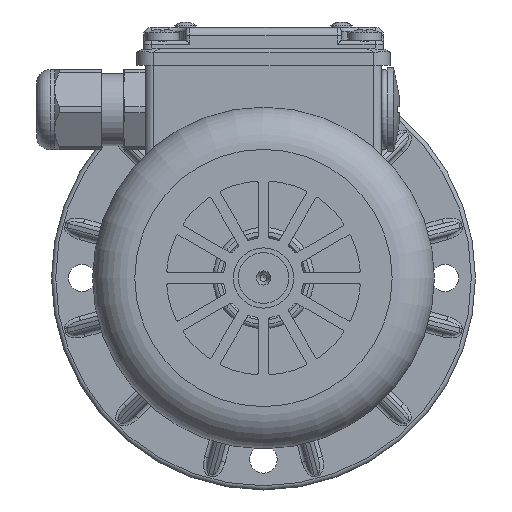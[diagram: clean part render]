
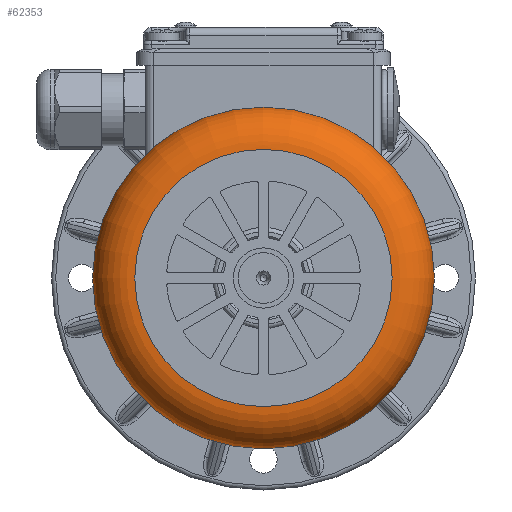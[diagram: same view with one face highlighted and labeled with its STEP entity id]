
A CAD part, left-side view. The second image highlights one B-rep face of the part: STEP entity #62353.
In plain terms, the highlighted toroidal (fillet/blend) face has major radius 30.5 mm and minor radius 10 mm.
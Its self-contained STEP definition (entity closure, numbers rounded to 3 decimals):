
#2854=TOROIDAL_SURFACE('',#67295,30.5,10.);
#15340=FACE_BOUND('',#21203,.T.);
#17321=FACE_OUTER_BOUND('',#21202,.T.);
#21202=EDGE_LOOP('',(#50671));
#21203=EDGE_LOOP('',(#50672));
#24455=CIRCLE('',#67296,40.5);
#24456=CIRCLE('',#67297,30.5);
#29099=VERTEX_POINT('',#109443);
#29100=VERTEX_POINT('',#109445);
#36810=EDGE_CURVE('',#29099,#29099,#24455,.T.);
#36811=EDGE_CURVE('',#29100,#29100,#24456,.T.);
#50671=ORIENTED_EDGE('',*,*,#36810,.T.);
#50672=ORIENTED_EDGE('',*,*,#36811,.T.);
#62353=ADVANCED_FACE('',(#17321,#15340),#2854,.T.);
#67295=AXIS2_PLACEMENT_3D('',#109442,#78027,#78028);
#67296=AXIS2_PLACEMENT_3D('',#109444,#78029,#78030);
#67297=AXIS2_PLACEMENT_3D('',#109446,#78031,#78032);
#78027=DIRECTION('center_axis',(0.,0.,-1.));
#78028=DIRECTION('ref_axis',(-1.,0.,0.));
#78029=DIRECTION('center_axis',(0.,0.,-1.));
#78030=DIRECTION('ref_axis',(-1.,0.,0.));
#78031=DIRECTION('center_axis',(0.,0.,1.));
#78032=DIRECTION('ref_axis',(-1.,0.,0.));
#109442=CARTESIAN_POINT('Origin',(0.,0.,10.));
#109443=CARTESIAN_POINT('',(40.5,0.,10.));
#109444=CARTESIAN_POINT('Origin',(0.,0.,10.));
#109445=CARTESIAN_POINT('',(30.5,0.,0.));
#109446=CARTESIAN_POINT('Origin',(0.,0.,0.));
